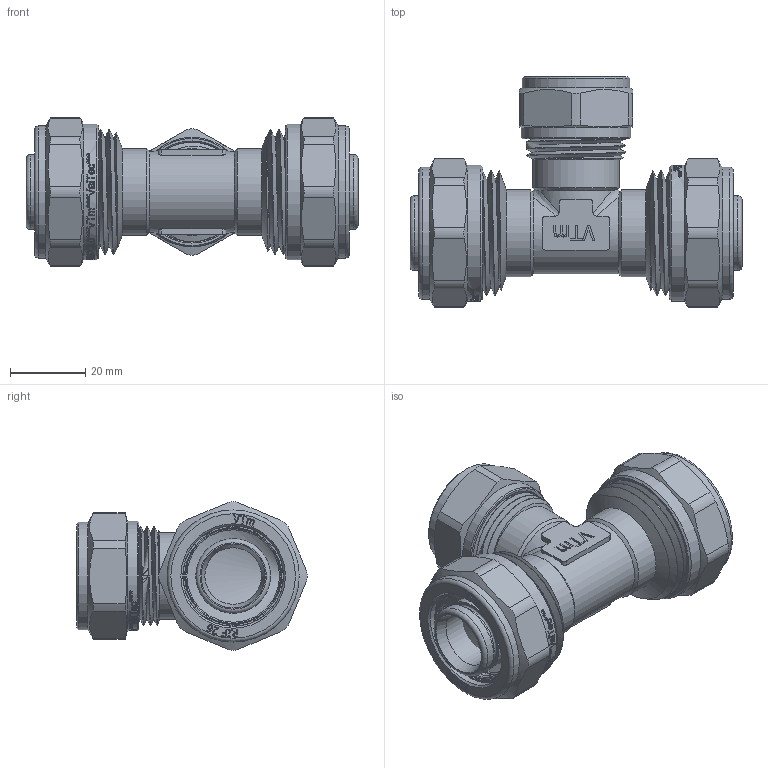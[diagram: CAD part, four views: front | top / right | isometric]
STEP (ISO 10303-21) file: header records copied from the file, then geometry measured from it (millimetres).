
FILE_DESCRIPTION(/* description */ (''),/* implementation_level */ '2;1');
FILE_NAME(/* name */ 'E:\Артём\00000\Работа удаленка\Обжимные фитинги\VTm.331.N.262026.stp',/* time_stamp */ '2020-06-30T13:07:11+03:00',/* author */ ('BeN_GaN'),/* organization */ (''),/* preprocessor_version */ 'ST-DEVELOPER v18',/* originating_system */ 'Autodesk Inventor 2020',/* authorisation */ '');
FILE_SCHEMA (('AUTOMOTIVE_DESIGN { 1 0 10303 214 3 1 1 }'));
Length unit declared in the file: millimetre
Products named in the file (1): VTm.331.N.262026
Bounding box: 88 x 61.19 x 39.39 mm (x, y, z)
Volume: 50126.9 mm3; surface area: 37973.9 mm2
Topology: 3 solids, 4 shells, 2028 faces, 5748 edges, 3884 vertices
Faces by surface type: bspline 1112, plane 551, cylinder 248, torus 70, cone 47
Full cylindrical faces by diameter (mm): 11.5 x1, 13.4 x2, 15 x1, 15.75 x4, 17.4 x4, 19.8 x10, 19.986 x4, 20.2 x1, 20.728 x5, 21 x1, 23 x7, 23.201 x1, 24.2 x2, 24.516 x8, 25.435 x10, 26.2 x2, 26.4 x3, 26.7 x2, 28.5 x3, 28.7 x8, 29 x1, 30.5 x4, 33.3 x2, 35 x2, 36 x2
Entity records: 89076 total; most frequent: CARTESIAN_POINT 43515, ORIENTED_EDGE 11504, DIRECTION 5998, EDGE_CURVE 5752, VERTEX_POINT 3888, LINE 2418, VECTOR 2418, B_SPLINE_CURVE_WITH_KNOTS 2415
